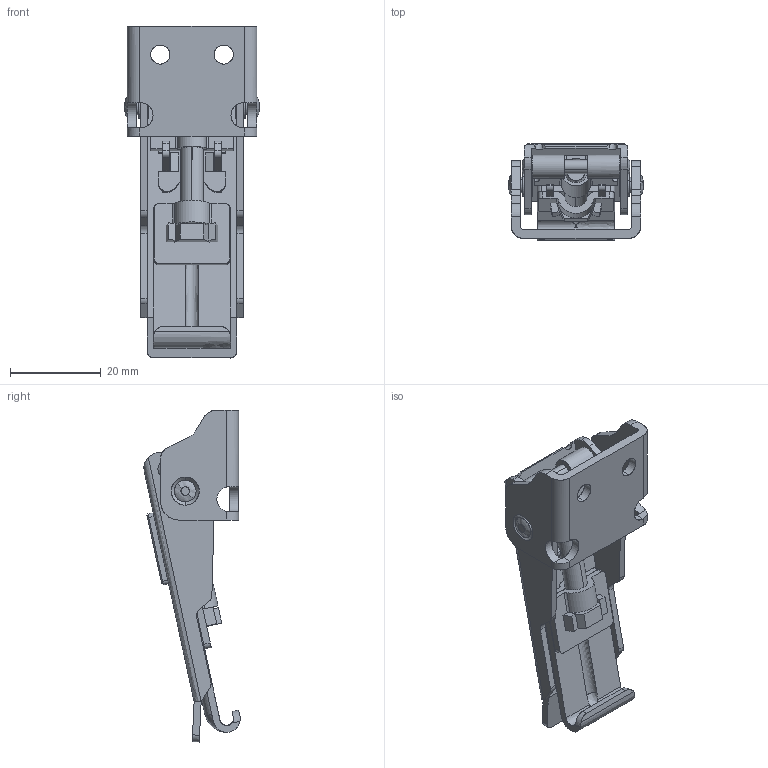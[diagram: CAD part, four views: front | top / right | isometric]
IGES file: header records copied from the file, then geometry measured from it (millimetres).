
Start section: SolidWorks IGES FILE using analytic representation for surfaces
Global section: file name: C:\Documents and Settings\lecoutey\Bureau\GR 62\GR 62.IGS; native system: SolidWorks 2004 by SolidWorks Corporation; preprocessor: Version 5.3; author: lecoutey; date: 050330.160022; units: millimetre
Bounding box: 29.6 x 21.29 x 73.3 mm (x, y, z)
Surface area: 12930.8 mm2 (no closed solid volume)
Topology: 0 solids, 0 shells, 497 faces, 5311 edges, 5247 vertices
Faces by surface type: revolution 249, bspline 248
